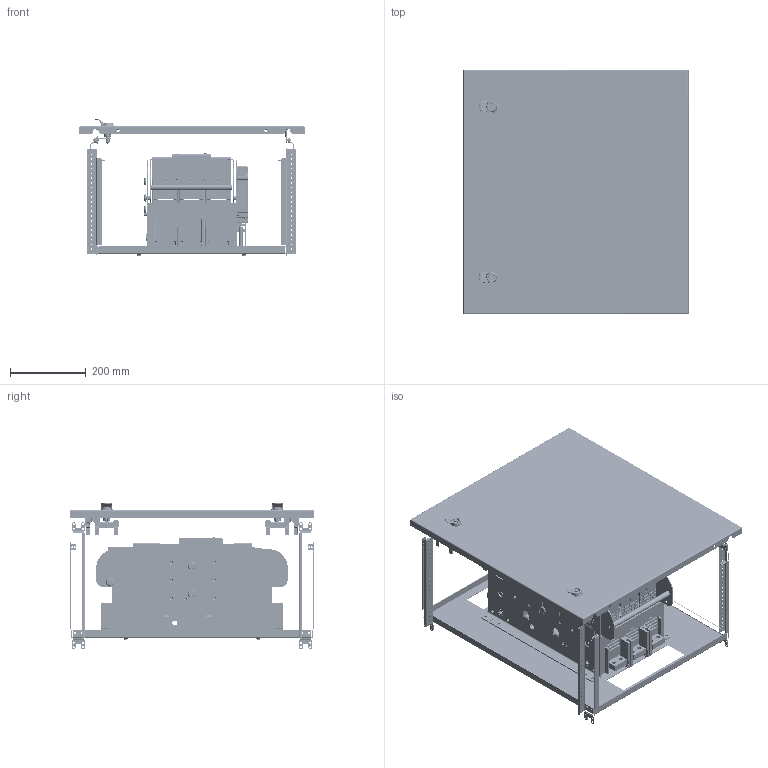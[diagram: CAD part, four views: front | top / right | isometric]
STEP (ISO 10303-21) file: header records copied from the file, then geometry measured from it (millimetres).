
FILE_DESCRIPTION(('CAx-IF Rec.Pracs.---Model Styling and Organization---1.2---2011-12-15','CAx-IF Rec.Pracs.---Geometric and Assembly Validation Properties---4.1---2014-06-16','CAx-IF Rec.Pracs.---PMI Polyline Presentation---2.0---2013-05-24'),'2;1');
FILE_NAME('R5PKEB7V61521D.stp','2021-07-29T02:25:44+03:00',(''),(''),'STEP Interface 4.4 by CT CoreTechnologie','3D_Evolution4.4 by CT CoreTechnologie','');
FILE_SCHEMA(('AUTOMOTIVE_DESIGN { 1 0 10303 214 1 1 1 1 }'));
Length unit declared in the file: millimetre
Products named in the file (1): R5PKEB7V61521D
Bounding box: 594 x 645 x 387.14 mm (x, y, z)
Surface area: 3991244.6 mm2 (no closed solid volume)
Topology: 0 solids, 149 shells, 9538 faces, 26888 edges, 17595 vertices
Faces by surface type: plane 5086, cylinder 3303, bspline 1149
Entity records: 329645 total; most frequent: CARTESIAN_POINT 80898, ORIENTED_EDGE 53081, DIRECTION 51062, EDGE_CURVE 26765, VECTOR 17776, LINE 17776, VERTEX_POINT 17581, AXIS2_PLACEMENT_3D 16643
